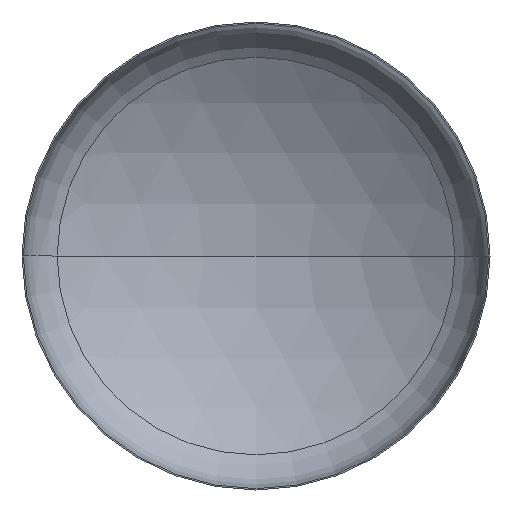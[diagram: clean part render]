
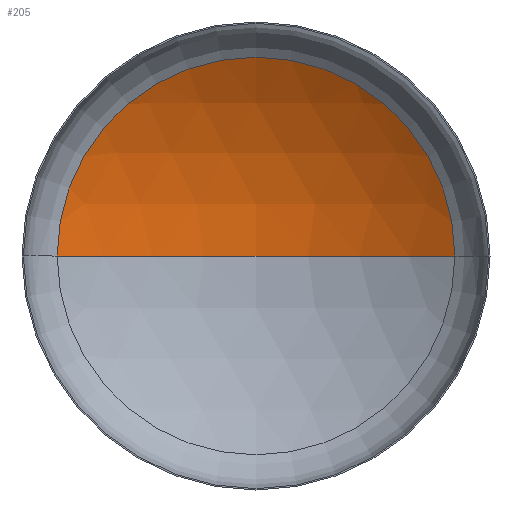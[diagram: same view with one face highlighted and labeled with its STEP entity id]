
A CAD part, front view. The second image highlights one B-rep face of the part: STEP entity #205.
In plain terms, the highlighted spherical face has radius 6000 mm.
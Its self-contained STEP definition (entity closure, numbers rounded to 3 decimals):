
#2 = DIRECTION ( 'NONE',  ( 1., 0., 0. ) ) ;
#6 = DIRECTION ( 'NONE',  ( 0., 0., 1. ) ) ;
#20 = DIRECTION ( 'NONE',  ( 0., 0., -1. ) ) ;
#50 = AXIS2_PLACEMENT_3D ( 'NONE', #175, #20, #216 ) ;
#64 = VERTEX_POINT ( 'NONE', #257 ) ;
#67 = VERTEX_POINT ( 'NONE', #233 ) ;
#80 = ORIENTED_EDGE ( 'NONE', *, *, #156, .T. ) ;
#87 = AXIS2_PLACEMENT_3D ( 'NONE', #406, #6, #2 ) ;
#91 = AXIS2_PLACEMENT_3D ( 'NONE', #154, #335, #392 ) ;
#94 = ORIENTED_EDGE ( 'NONE', *, *, #158, .T. ) ;
#97 = AXIS2_PLACEMENT_3D ( 'NONE', #211, #212, #191 ) ;
#103 = SPHERICAL_SURFACE ( 'NONE', #50, 6000. ) ;
#108 = EDGE_LOOP ( 'NONE', ( #135, #94, #80 ) ) ;
#131 = VERTEX_POINT ( 'NONE', #232 ) ;
#135 = ORIENTED_EDGE ( 'NONE', *, *, #160, .F. ) ;
#154 = CARTESIAN_POINT ( 'NONE',  ( 0., -4035.325, 0. ) ) ;
#156 = EDGE_CURVE ( 'NONE', #64, #131, #231, .T. ) ;
#158 = EDGE_CURVE ( 'NONE', #67, #64, #297, .T. ) ;
#160 = EDGE_CURVE ( 'NONE', #67, #131, #396, .T. ) ;
#175 = CARTESIAN_POINT ( 'NONE',  ( 0., -4035.325, 0. ) ) ;
#191 = DIRECTION ( 'NONE',  ( 1., 0., 0. ) ) ;
#205 = ADVANCED_FACE ( 'NONE', ( #386 ), #103, .F. ) ;
#211 = CARTESIAN_POINT ( 'NONE',  ( 0., 1048.669, 0. ) ) ;
#212 = DIRECTION ( 'NONE',  ( 0., -1., 0. ) ) ;
#216 = DIRECTION ( 'NONE',  ( -1., 0., 0. ) ) ;
#231 = CIRCLE ( 'NONE', #97, 3186.378 ) ;
#232 = CARTESIAN_POINT ( 'NONE',  ( -3186.378, 1048.669, 0. ) ) ;
#233 = CARTESIAN_POINT ( 'NONE',  ( 0., 1964.675, 0. ) ) ;
#257 = CARTESIAN_POINT ( 'NONE',  ( 3186.378, 1048.669, 0. ) ) ;
#297 = CIRCLE ( 'NONE', #91, 6000. ) ;
#335 = DIRECTION ( 'NONE',  ( 0., 0., -1. ) ) ;
#386 = FACE_OUTER_BOUND ( 'NONE', #108, .T. ) ;
#392 = DIRECTION ( 'NONE',  ( -1., 0., 0. ) ) ;
#396 = CIRCLE ( 'NONE', #87, 6000. ) ;
#406 = CARTESIAN_POINT ( 'NONE',  ( 0., -4035.325, 0. ) ) ;
